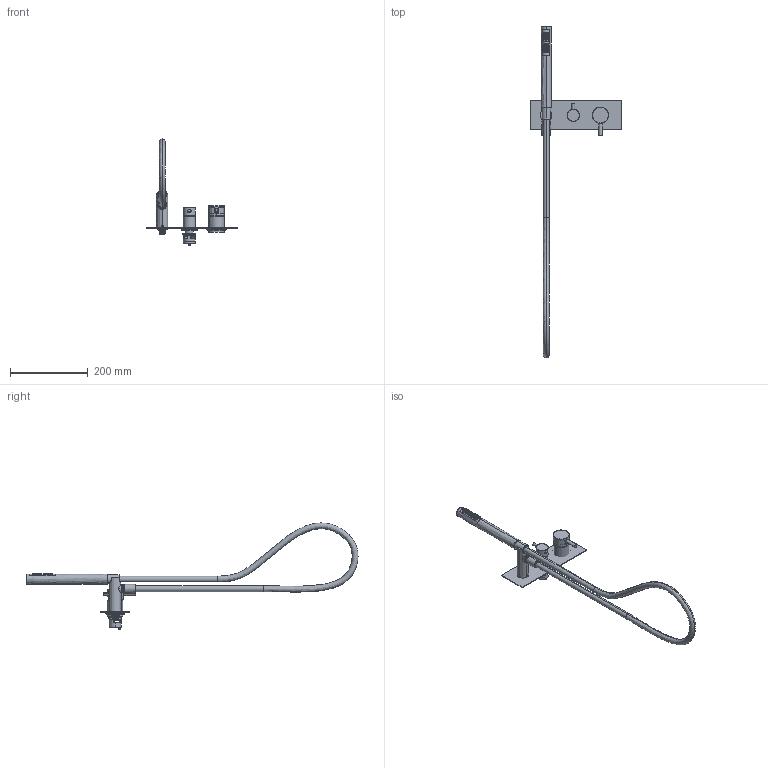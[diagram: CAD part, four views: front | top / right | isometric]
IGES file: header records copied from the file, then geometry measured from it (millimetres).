
Start section:  PTC IGES file: 12529v3_sw0001.igs
Global section: file name: 12529v3_sw0001.igs; native system: Creo Parametric by PTC Inc.; preprocessor: 2022014; author: volponeff; organization: Unknown; date: 20230601.115138; units: millimetre
Bounding box: 235 x 856.76 x 273.93 mm (x, y, z)
Surface area: 171336.9 mm2 (no closed solid volume)
Topology: 0 solids, 0 shells, 313 faces, 1397 edges, 1395 vertices
Faces by surface type: revolution 250, bspline 63
